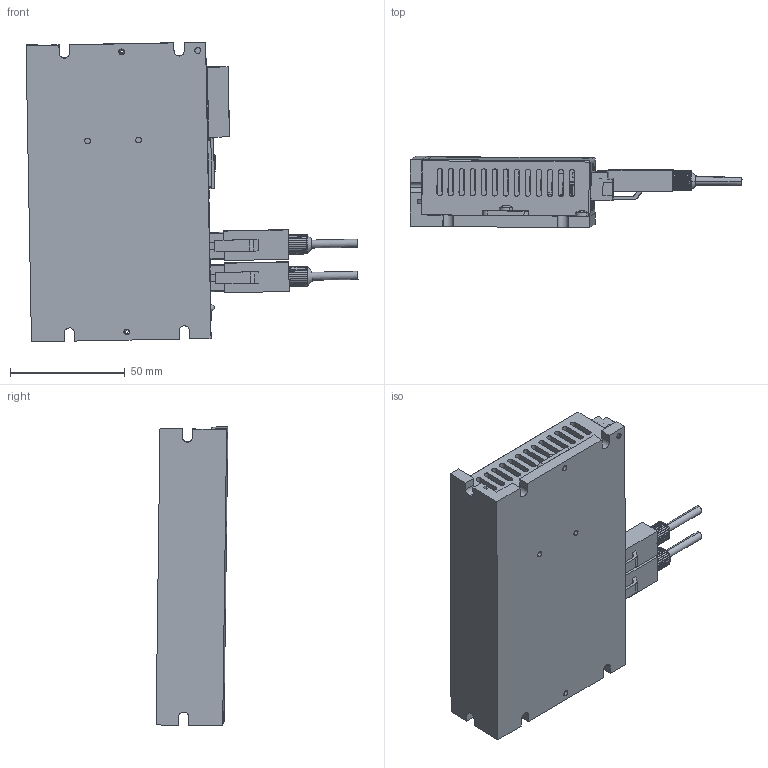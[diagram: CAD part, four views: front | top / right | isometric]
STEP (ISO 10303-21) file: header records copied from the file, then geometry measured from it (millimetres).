
FILE_DESCRIPTION (( 'STEP AP214' ), '1' );
FILE_NAME ('STF-D123 陑构.STEP', '2017-09-27T06:52:13', ( '' ), ( '' ), 'SwSTEP 2.0', 'SolidWorks 2015', '' );
FILE_SCHEMA (( 'AUTOMOTIVE_DESIGN' ));
Length unit declared in the file: millimetre
Products named in the file (1): STF-D123 陑构
Bounding box: 144.54 x 31.3 x 130.47 mm (x, y, z)
Surface area: 71177.5 mm2 (no closed solid volume)
Topology: 0 solids, 45 shells, 1188 faces, 5706 edges, 4482 vertices
Faces by surface type: plane 792, cylinder 276, bspline 101, cone 11, sphere 8
Entity records: 75418 total; most frequent: CARTESIAN_POINT 20076, ORIENTED_EDGE 8186, DIRECTION 7476, EDGE_CURVE 5701, VERTEX_POINT 4482, LINE 3498, VECTOR 3498, AXIS2_PLACEMENT_3D 1989
